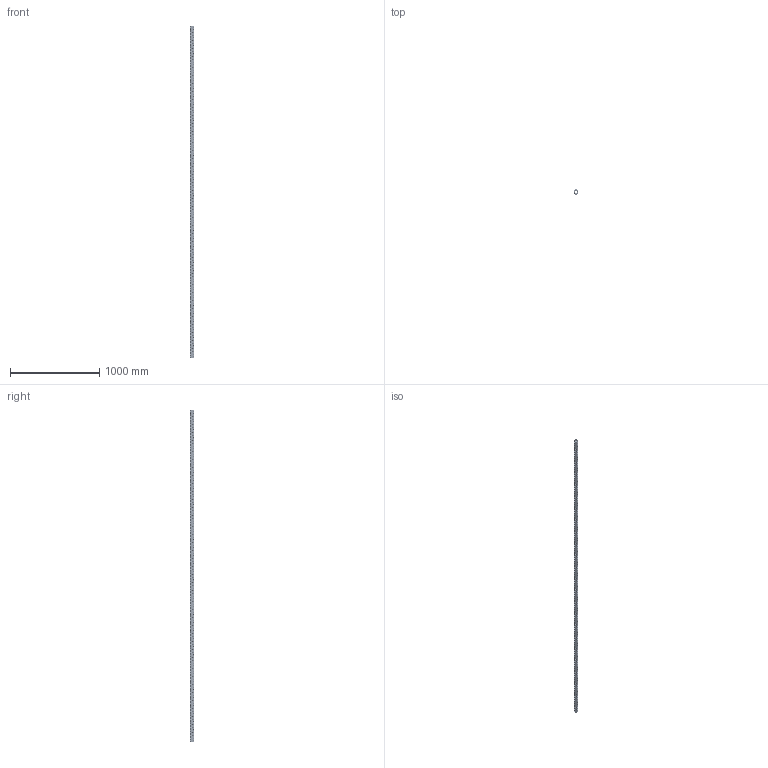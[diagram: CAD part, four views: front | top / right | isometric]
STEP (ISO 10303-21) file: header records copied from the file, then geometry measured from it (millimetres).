
FILE_DESCRIPTION(('CATIA V5 STEP Exchange'),'2;1');
FILE_NAME('U:\Room\唐宝山\EGT002\46-01-010353-01-EGT002-3718.stp','2021-08-25T00:50:16+00:00',('none'),('none'),'CATIA Version 5 Release 21 GA (IN-10)','CATIA V5 STEP AP203','none');
FILE_SCHEMA(('CONFIG_CONTROL_DESIGN'));
Products named in the file (1): 46-01-010353-01-EGT002-3718
Bounding box: 50 x 50 x 3718 mm (x, y, z)
Volume: 2649276.1 mm3; surface area: 1275700.2 mm2
Topology: 1 solids, 1 shells, 5044 faces, 13886 edges, 8596 vertices
Faces by surface type: cone 2976, cylinder 2042, plane 26
Entity records: 204619 total; most frequent: CARTESIAN_POINT 82192, ORIENTED_EDGE 27772, DIRECTION 19815, EDGE_CURVE 13886, AXIS2_PLACEMENT_3D 9434, VERTEX_POINT 8596, EDGE_LOOP 6782, VECTOR 5338
